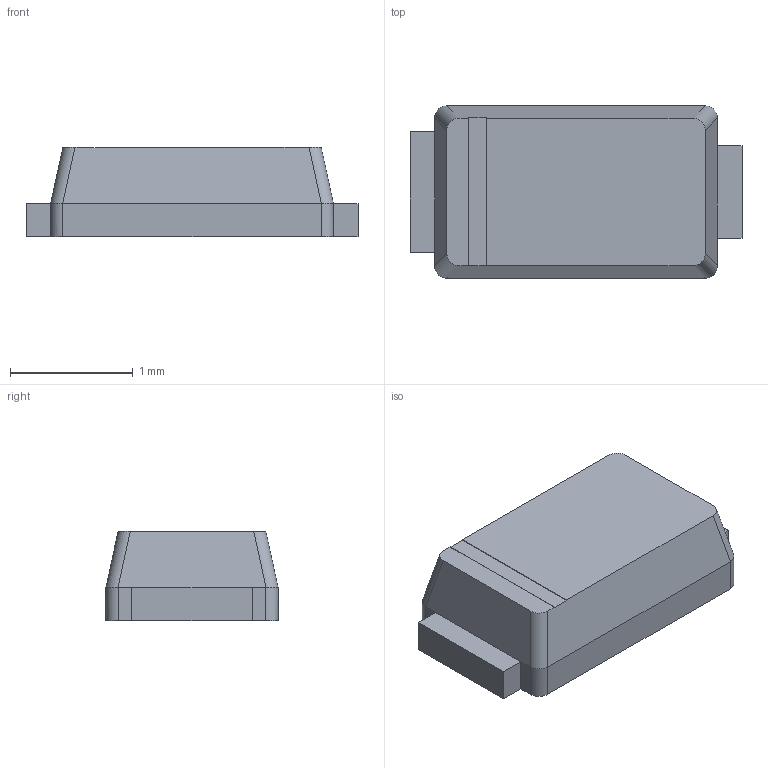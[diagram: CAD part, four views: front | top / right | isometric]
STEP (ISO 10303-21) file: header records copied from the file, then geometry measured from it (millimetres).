
FILE_DESCRIPTION (( 'STEP AP214' ), '1' );
FILE_NAME ('User Library-MicroSMP.STEP', '2019-07-09T15:49:29', ( '' ), ( '' ), 'SwSTEP 2.0', 'SolidWorks 2019', '' );
FILE_SCHEMA (( 'AUTOMOTIVE_DESIGN' ));
Length unit declared in the file: millimetre
Products named in the file (3): User Library-MicroSMP; User Library-MicroSMP_Body; User Library-MicroSMP_Pads
Assembly tree (2 placements, depth 2):
  User Library-MicroSMP
    User Library-MicroSMP_Pads
    User Library-MicroSMP_Body
Bounding box: 2.7 x 1.4 x 0.73 mm (x, y, z)
Volume: 2.3 mm3; surface area: 18.1 mm2
Topology: 3 solids, 3 shells, 44 faces, 110 edges, 72 vertices
Faces by surface type: plane 36, cylinder 8
Entity records: 1889 total; most frequent: CARTESIAN_POINT 279, ORIENTED_EDGE 220, DIRECTION 196, EDGE_CURVE 110, VECTOR 90, LINE 90, VERTEX_POINT 72, AXIS2_PLACEMENT_3D 53
